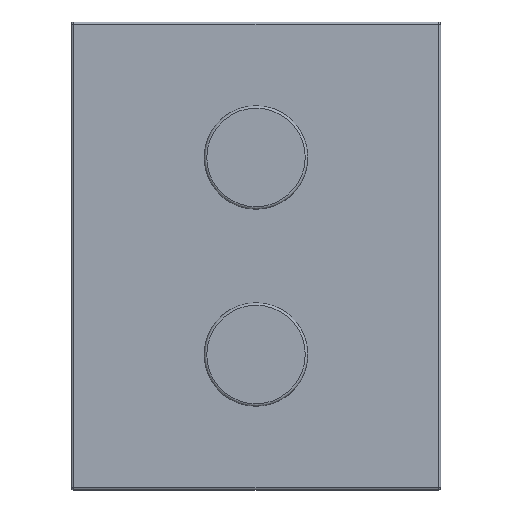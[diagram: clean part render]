
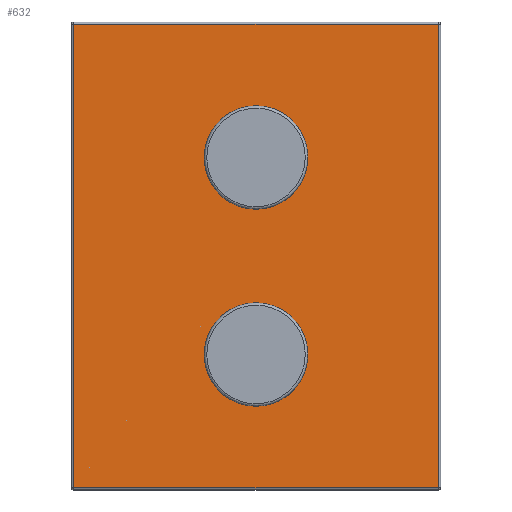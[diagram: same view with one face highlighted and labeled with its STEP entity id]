
A CAD part, front view. The second image highlights one B-rep face of the part: STEP entity #632.
In plain terms, the highlighted planar face has unit normal (0, -1, 0).
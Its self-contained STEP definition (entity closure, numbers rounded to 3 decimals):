
#79=LINE('',#2360,#115);
#80=LINE('',#2362,#116);
#81=LINE('',#2364,#117);
#82=LINE('',#2365,#118);
#115=VECTOR('',#1790,148.);
#116=VECTOR('',#1791,188.);
#117=VECTOR('',#1792,148.);
#118=VECTOR('',#1793,188.);
#160=FACE_OUTER_BOUND('',#210,.T.);
#210=EDGE_LOOP('',(#519,#520,#521,#522));
#313=VERTEX_POINT('',#2358);
#314=VERTEX_POINT('',#2359);
#315=VERTEX_POINT('',#2361);
#316=VERTEX_POINT('',#2363);
#383=EDGE_CURVE('',#313,#314,#79,.T.);
#384=EDGE_CURVE('',#314,#315,#80,.T.);
#385=EDGE_CURVE('',#315,#316,#81,.T.);
#386=EDGE_CURVE('',#316,#313,#82,.T.);
#519=ORIENTED_EDGE('',*,*,#383,.T.);
#520=ORIENTED_EDGE('',*,*,#384,.T.);
#521=ORIENTED_EDGE('',*,*,#385,.T.);
#522=ORIENTED_EDGE('',*,*,#386,.T.);
#598=PLANE('',#1465);
#632=ADVANCED_FACE('',(#160),#598,.T.);
#1465=AXIS2_PLACEMENT_3D('',#2357,#1788,#1789);
#1788=DIRECTION('center_axis',(0.,-1.,0.));
#1789=DIRECTION('ref_axis',(0.,0.,
-1.));
#1790=DIRECTION('',(1.,0.,0.));
#1791=DIRECTION('',(0.,0.,1.));
#1792=DIRECTION('',(-1.,0.,0.));
#1793=DIRECTION('',(0.,0.,-1.));
#2357=CARTESIAN_POINT('Origin',(-78.34,-74.7,-13.64));
#2358=CARTESIAN_POINT('',(-127.64,-74.7,-85.66));
#2359=CARTESIAN_POINT('',(20.36,-74.7,-85.66));
#2360=CARTESIAN_POINT('',(-127.64,-74.7,-85.66));
#2361=CARTESIAN_POINT('',(20.36,-74.7,102.34));
#2362=CARTESIAN_POINT('',(20.36,-74.7,-85.66));
#2363=CARTESIAN_POINT('',(-127.64,-74.7,102.34));
#2364=CARTESIAN_POINT('',(20.36,-74.7,102.34));
#2365=CARTESIAN_POINT('',(-127.64,-74.7,102.34));
